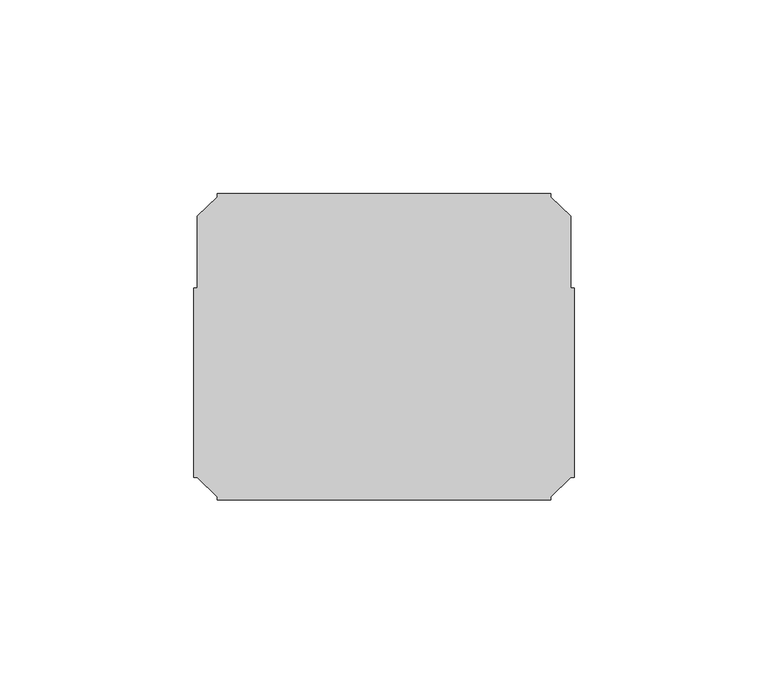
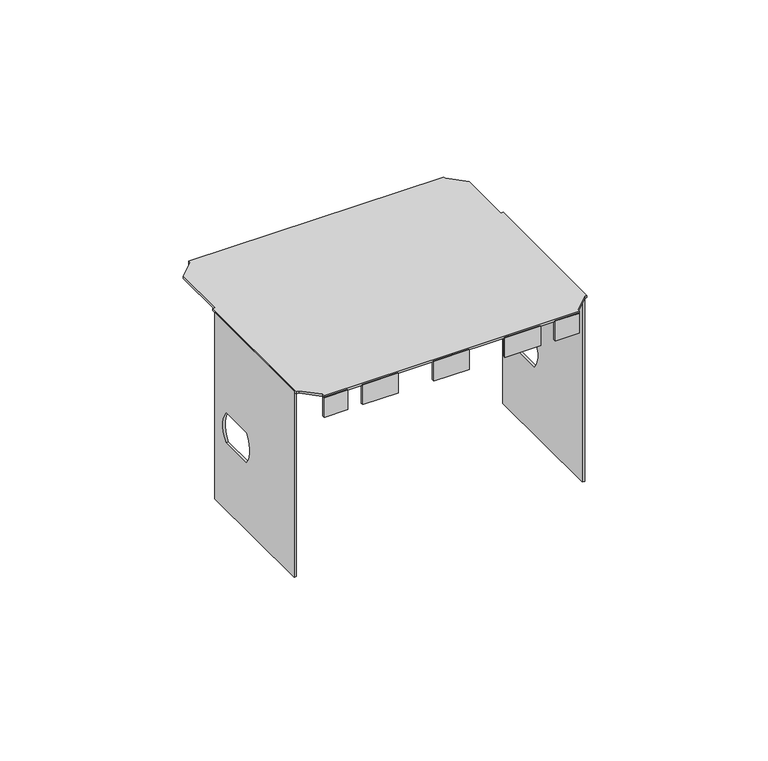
"""IFC4 building model written with IfcOpenShell, lengths in millimetres: proxy geometry, Cable_Tray_FinalCover_TFERE_Basortray : Basortray TFERE 100x80-GS."""

from ifc_helpers import new_model, si_unit, point, frame, frame_2d, origin, origin_with_axes, place, context, project, spatial, polyline, circle_curve, trimmed, segment, composite_curve, outline, extrude, source, transform, mapped, element, save


def generic_models_85299ec2(model_context):
    return source(origin(), model_context, "Body", "SweptSolid", [
        extrude(outline(polyline([(6.0, -39.5), (-6.0, -39.5), (-6.0, -38.7), (6.0, -38.7), (6.0, -39.5)])), frame((0.0, 0.0, -7.0), z_axis=(0.0, 0.0, 1.0), x_axis=(1.0, 0.0, 0.0)), (0.0, 0.0, 1.0), 7.0),
        extrude(outline(polyline([(-18.0, -39.5), (-30.0, -39.5), (-30.0, -38.7), (-18.0, -38.7), (-18.0, -39.5)])), frame((0.0, 0.0, -7.0), z_axis=(0.0, 0.0, 1.0), x_axis=(1.0, 0.0, 0.0)), (0.0, 0.0, 1.0), 7.0),
        extrude(outline(polyline([(30.0, -39.5), (18.0, -39.5), (18.0, -38.7), (30.0, -38.7), (30.0, -39.5)])), frame((0.0, 0.0, -7.0), z_axis=(0.0, 0.0, 1.0), x_axis=(1.0, 0.0, 0.0)), (0.0, 0.0, 1.0), 7.0),
        extrude(outline(polyline([(6.0, 38.7), (-6.0, 38.7), (-6.0, 39.5), (6.0, 39.5), (6.0, 38.7)])), frame((0.0, 0.0, -7.0), z_axis=(0.0, 0.0, 1.0), x_axis=(1.0, 0.0, 0.0)), (0.0, 0.0, 1.0), 7.0),
        extrude(outline(polyline([(-18.0, 38.7), (-30.0, 38.7), (-30.0, 39.5), (-18.0, 39.5), (-18.0, 38.7)])), frame((0.0, 0.0, -7.0), z_axis=(0.0, 0.0, 1.0), x_axis=(1.0, 0.0, 0.0)), (0.0, 0.0, 1.0), 7.0),
        extrude(outline(polyline([(30.0, 38.7), (18.0, 38.7), (18.0, 39.5), (30.0, 39.5), (30.0, 38.7)])), frame((0.0, 0.0, -7.0), z_axis=(0.0, 0.0, 1.0), x_axis=(1.0, 0.0, 0.0)), (0.0, 0.0, 1.0), 7.0),
        extrude(outline(polyline([(-35.0, 38.7), (-43.0, 38.7), (-43.0, 39.5), (-35.0, 39.5), (-35.0, 38.7)])), frame((0.0, 0.0, -7.0), z_axis=(0.0, 0.0, 1.0), x_axis=(1.0, 0.0, 0.0)), (0.0, 0.0, 1.0), 7.0),
        extrude(outline(polyline([(43.0, 38.7), (35.0, 38.7), (35.0, 39.5), (43.0, 39.5), (43.0, 38.7)])), frame((0.0, 0.0, -7.0), z_axis=(0.0, 0.0, 1.0), x_axis=(1.0, 0.0, 0.0)), (0.0, 0.0, 1.0), 7.0),
        extrude(outline(polyline([(-32.2878363, -66.3752542), (-32.2878363, 0.0), (13.9758072, 0.0), (13.9758072, -66.3752542), (-32.2878363, -66.3752542)]), holes=[composite_curve([segment(trimmed(circle_curve(frame_2d((1.2017922, -37.0966998)), 8.1136674), [point((7.3919957, -42.3419813))], [point((7.3919957, -31.8514183))], True, "CARTESIAN"), True, "CONTINUOUS"), segment(polyline([(7.3919957, -31.8514183), (-4.3327512, -31.8514183)]), True, "CONTINUOUS"), segment(trimmed(circle_curve(frame_2d((1.8574524, -37.0966998)), 8.1136674), [point((-4.3327512, -31.8514183))], [point((-4.3327512, -42.3419813))], True, "CARTESIAN"), True, "CONTINUOUS"), segment(polyline([(-4.3327512, -42.3419813), (7.3919957, -42.3419813)]), True, "CONTINUOUS")], self_intersect=False)]), frame((48.2, 0.0, 0.0), z_axis=(1.0, 0.0, 0.0), x_axis=(0.0, 1.0, 0.0)), (0.0, 0.0, 1.0), 0.8),
        extrude(outline(polyline([(-32.2878363, -66.3752542), (-32.2878363, 0.0), (13.9758072, 0.0), (13.9758072, -66.3752542), (-32.2878363, -66.3752542)]), holes=[composite_curve([segment(trimmed(circle_curve(frame_2d((1.2017922, -37.0966998)), 8.1136674), [point((7.3919957, -42.3419813))], [point((7.3919957, -31.8514183))], True, "CARTESIAN"), True, "CONTINUOUS"), segment(polyline([(7.3919957, -31.8514183), (-4.3327512, -31.8514183)]), True, "CONTINUOUS"), segment(trimmed(circle_curve(frame_2d((1.8574524, -37.0966998)), 8.1136674), [point((-4.3327512, -31.8514183))], [point((-4.3327512, -42.3419813))], True, "CARTESIAN"), True, "CONTINUOUS"), segment(polyline([(-4.3327512, -42.3419813), (7.3919957, -42.3419813)]), True, "CONTINUOUS")], self_intersect=False)]), frame((-49.0, 0.0, 0.0), z_axis=(1.0, 0.0, 0.0), x_axis=(0.0, 1.0, 0.0)), (0.0, 0.0, 1.0), 0.8),
        extrude(outline(polyline([(-35.0, -39.5), (-43.0, -39.5), (-43.0, -38.7), (-35.0, -38.7), (-35.0, -39.5)])), frame((0.0, 0.0, -7.0), z_axis=(0.0, 0.0, 1.0), x_axis=(1.0, 0.0, 0.0)), (0.0, 0.0, 1.0), 7.0),
        extrude(outline(polyline([(43.0, -39.5), (35.0, -39.5), (35.0, -38.7), (43.0, -38.7), (43.0, -39.5)])), frame((0.0, 0.0, -7.0), z_axis=(0.0, 0.0, 1.0), x_axis=(1.0, 0.0, 0.0)), (0.0, 0.0, 1.0), 7.0),
        extrude(outline(polyline([(-49.0, 15.2123051), (-48.2, 15.2123051), (-48.2, 33.697673), (-43.0, 38.7), (-43.0, 39.5), (0.0, 39.5), (43.0, 39.5), (43.0, 38.7), (48.2, 33.697673), (48.2, 15.2123051), (49.0, 15.2123051), (49.0, -33.697673), (48.2, -33.697673), (43.0, -38.7), (43.0, -39.5), (0.0, -39.5), (-43.0, -39.5), (-43.0, -38.7), (-48.2, -33.697673), (-49.0, -33.697673), (-49.0, 15.2123051)])), origin_with_axes(), (0.0, 0.0, 1.0), 0.8),
    ])


if __name__ == "__main__":
    model = new_model("IFC4")
    model_context = context("Model", 3, world=origin())
    ifc_project = project(units=[si_unit("LENGTHUNIT", "METRE", prefix="MILLI")], contexts=[model_context])
    site = spatial("IfcSite", under=ifc_project)
    building = spatial("IfcBuilding", under=site)
    placement = place(None, origin())
    generic_models_shape = generic_models_85299ec2(model_context)
    element("IfcBuildingElementProxy", 1, Name="Cable_Tray_FinalCover_TFERE_Basortray : Basortray TFERE 100x80-GS", ObjectType="Cable_Tray_FinalCover_TFERE_Basortray : Basortray TFERE 100x80-GS", at=placement, inside=building, context=model_context, shape_type="MappedRepresentation", body=[
        mapped(generic_models_shape, transform((0.0, 0.0, 0.0), x_axis=(1.0, 0.0, 0.0), y_axis=(0.0, 1.0, 0.0), z_axis=(0.0, 0.0, 1.0))),
    ])
    save(model, "model.ifc")
